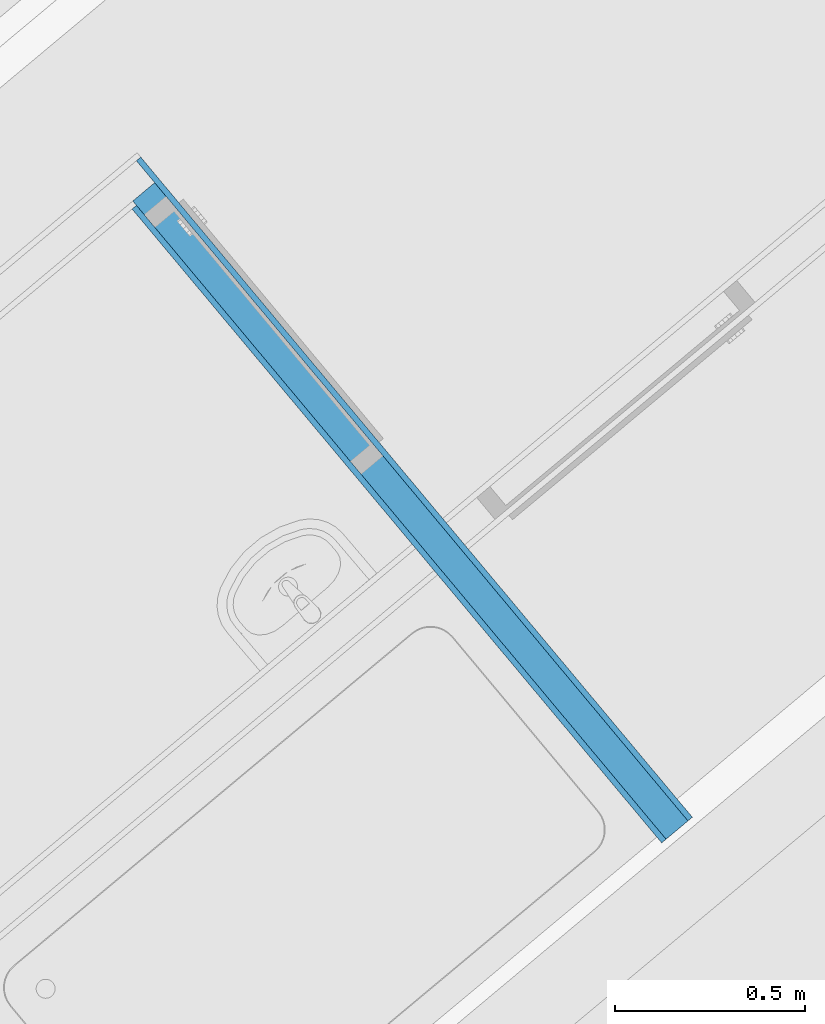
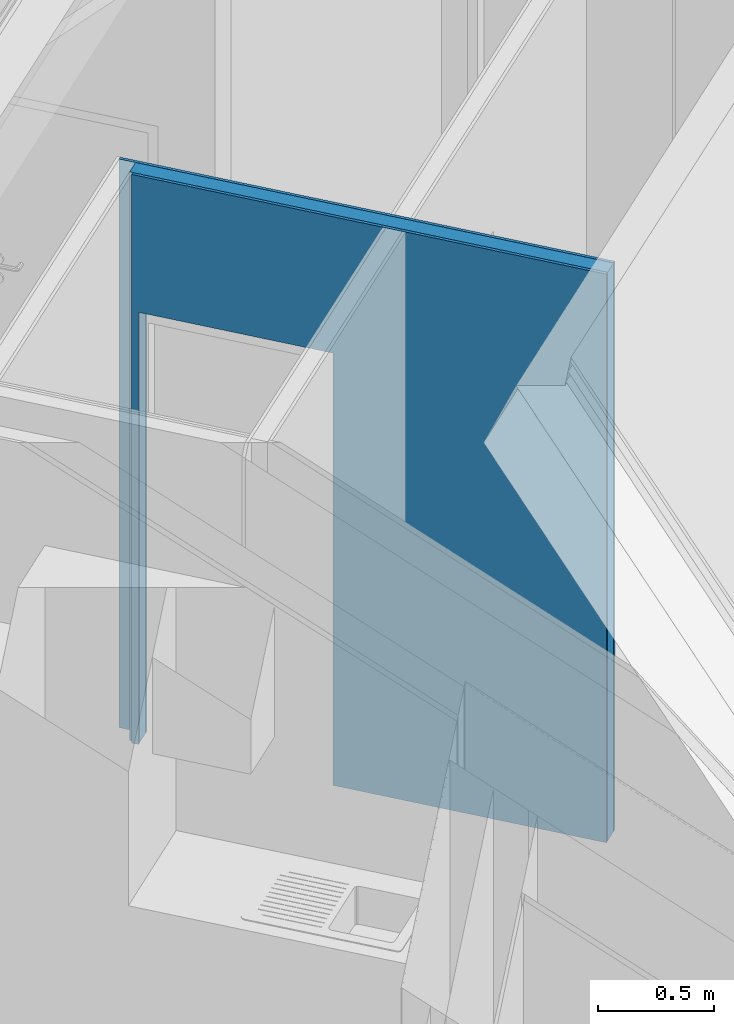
# One storey, part 1 of 47: 3 building element parts, 1 opening, 1 element without a shape of its own.
"""IFC4 building model written with IfcOpenShell, lengths in metres."""

from ifc_helpers import new_model, entity, si_unit, converted_unit, derived_unit, direction, frame, origin_with_axes, place, context, subcontext, project, spatial, polygons, material, type_object, element, aggregate, save


model = new_model("IFC4")

# Units and contexts
model_context = context("Model", 3, precision=1e-05, world=origin_with_axes(), true_north=direction((0.0, 1.0)))
body_context = subcontext(model_context, "Body", "Model", "MODEL_VIEW")
ifc_project = project(units=[si_unit("LENGTHUNIT", "METRE"), si_unit("AREAUNIT", "SQUARE_METRE"), si_unit("VOLUMEUNIT", "CUBIC_METRE"), converted_unit("PLANEANGLEUNIT", "DEGREE", entity("IfcPlaneAngleMeasure", 0.0174532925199), si_unit("PLANEANGLEUNIT", "RADIAN"), dimensions=[0, 0, 0, 0, 0, 0, 0]), converted_unit("TIMEUNIT", "Year", entity("IfcTimeMeasure", 31556926.0), si_unit("TIMEUNIT", "SECOND"), dimensions=[0, 0, 1, 0, 0, 0, 0]), si_unit("MASSUNIT", "GRAM", prefix="KILO"), si_unit("THERMODYNAMICTEMPERATUREUNIT", "DEGREE_CELSIUS"), si_unit("LUMINOUSINTENSITYUNIT", "LUMEN"), si_unit("ENERGYUNIT", "JOULE", prefix="MEGA"), derived_unit("THERMALCONDUCTANCEUNIT", [(si_unit("POWERUNIT", "WATT"), 1), (si_unit("LENGTHUNIT", "METRE"), -1), (si_unit("THERMODYNAMICTEMPERATUREUNIT", "KELVIN"), -1)]), derived_unit("SPECIFICHEATCAPACITYUNIT", [(si_unit("ENERGYUNIT", "JOULE"), 1), (si_unit("MASSUNIT", "GRAM", prefix="KILO"), -1), (si_unit("THERMODYNAMICTEMPERATUREUNIT", "KELVIN"), -1)]), derived_unit("MASSDENSITYUNIT", [(si_unit("MASSUNIT", "GRAM", prefix="KILO"), 1), (si_unit("VOLUMEUNIT", "CUBIC_METRE"), -1)])], contexts=[model_context])

# Site, building, storey
site_placement = place(None, frame((-0.00153261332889, -0.00661245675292, 0.0), z_axis=(0.0, 0.0, 1.0), x_axis=(1.0, 0.0, 0.0)))
site = spatial("IfcSite", under=ifc_project, at=site_placement, Name="Site", CompositionType="ELEMENT")
building_placement = place(site_placement, origin_with_axes())
building = spatial("IfcBuilding", under=site, at=building_placement, Name="Building", CompositionType="ELEMENT")
storey_placement = place(building_placement, frame((0.0, 0.0, 8.66), z_axis=(0.0, 0.0, 1.0), x_axis=(1.0, 0.0, 0.0)))
storey = spatial("IfcBuildingStorey", under=building, at=storey_placement, Name="DG2", CompositionType="ELEMENT", Elevation=8.66)

# Wall, opening, building element parts
wall_type = type_object("IfcWallType", Name="IW LB 01 Leichtbautrennwand einfach 10,5 cm 105", PredefinedType="NOTDEFINED")
wall_placement = place(storey_placement, frame((2.56825967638, 20.9467525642, 0.0), z_axis=(0.0, 0.0, 1.0), x_axis=(0.641218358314, -0.767358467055, 0.0)))
wall = element("IfcWall", 1, at=wall_placement, inside=storey, type_object=wall_type, Name="Wand-014", PredefinedType="NOTDEFINED")
opening_placement = place(wall_placement, frame((0.476292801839, 0.0, 0.22), z_axis=(0.0, 0.0, 1.0), x_axis=(1.0, 0.0, 0.0)))
element("IfcOpeningElement", 2, at=opening_placement, cuts=wall, Name="Tür-019", context=body_context, identifier="Reference", shape_type="Tessellation", body=[
    polygons([(-0.445, -1.0690795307, 2.045), (-0.445, -1.0690795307, -0.22), (0.445, -1.0690795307, -0.22), (0.445, -1.0690795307, 2.045), (-0.445, 1.1740795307, 2.045), (-0.445, 1.1740795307, -0.22), (0.445, 1.1740795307, -0.22), (0.445, 1.1740795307, 2.045)], [[[1, 2, 3, 4]], [[5, 6, 2, 1]], [[6, 7, 3, 2]], [[7, 8, 4, 3]], [[8, 5, 1, 4]], [[7, 6, 5, 8]]], closed=True),
])
ifc_material_1 = material(Name="Gipskarton")
building_element_part_1_placement = place(wall_placement, origin_with_axes())
building_element_part_1 = element("IfcBuildingElementPart", 3, at=building_element_part_1_placement, material=ifc_material_1, Name="Gipskarton", PredefinedType="NOTDEFINED", context=body_context, shape_type="Tessellation", body=[
    polygons([(0.0312928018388, 0.105, 2.265), (0.0312928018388, 0.105, 0.22), (0.0312928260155, 0.105, 0.0), (-0.0899987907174, 0.105, 0.0), (-0.0899987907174, 0.105, 2.98), (2.17069774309, 0.105, 2.98), (2.17069774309, 0.105, 0.0), (0.921292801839, 0.105, 0.0), (0.921292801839, 0.105, 0.22), (0.921292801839, 0.105, 2.265), (0.0312928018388, 0.09, 2.265), (0.0312928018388, 0.09, 0.22), (0.0312928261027, 0.09, 0.0), (-0.0899989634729, 0.09, 0.0), (-0.0899989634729, 0.09, 2.98), (2.17069774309, 0.09, 2.98), (2.17069774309, 0.09, 0.0), (0.921292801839, 0.09, 0.0), (0.921292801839, 0.09, 0.22), (0.921292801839, 0.09, 2.265)], [[[1, 2, 3, 4, 5, 6, 7, 8, 9, 10]], [[2, 1, 11, 12]], [[2, 12, 13, 3]], [[13, 14, 4, 3]], [[4, 14, 15, 5]], [[16, 6, 5, 15]], [[7, 6, 16, 17]], [[8, 7, 17, 18]], [[19, 9, 8, 18]], [[10, 9, 19, 20]], [[1, 10, 20, 11]], [[20, 19, 18, 17, 16, 15, 14, 13, 12, 11]]], closed=True),
])
ifc_material_2 = material(Name="Mineralwolle weich")
building_element_part_2_placement = place(wall_placement, origin_with_axes())
building_element_part_2 = element("IfcBuildingElementPart", 4, at=building_element_part_2_placement, material=ifc_material_2, Name="Mineralwolle weich", PredefinedType="NOTDEFINED", context=body_context, shape_type="Tessellation", body=[
    polygons([(0.0312928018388, 0.09, 2.265), (0.0312928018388, 0.09, 0.22), (0.0312928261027, 0.09, 0.0), (-0.0149989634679, 0.09, 0.0), (-0.0149989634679, 0.09, 2.98), (2.17069774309, 0.09, 2.98), (2.17069774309, 0.09, 0.0), (0.921292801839, 0.09, 0.0), (0.921292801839, 0.09, 0.22), (0.921292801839, 0.09, 2.265), (0.0312928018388, 0.015, 2.265), (0.0312928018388, 0.015, 0.22), (0.0312928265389, 0.015, 0.0), (-0.0149998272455, 0.015, 0.0), (-0.0149998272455, 0.015, 2.98), (2.17069774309, 0.015, 2.98), (2.17069774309, 0.015, 0.0), (0.921292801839, 0.015, 0.0), (0.921292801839, 0.015, 0.22), (0.921292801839, 0.015, 2.265)], [[[1, 2, 3, 4, 5, 6, 7, 8, 9, 10]], [[2, 1, 11, 12]], [[2, 12, 13, 3]], [[13, 14, 4, 3]], [[4, 14, 15, 5]], [[16, 6, 5, 15]], [[7, 6, 16, 17]], [[8, 7, 17, 18]], [[19, 9, 8, 18]], [[10, 9, 19, 20]], [[1, 10, 20, 11]], [[20, 19, 18, 17, 16, 15, 14, 13, 12, 11]]], closed=True),
])
building_element_part_3_placement = place(wall_placement, origin_with_axes())
building_element_part_3 = element("IfcBuildingElementPart", 5, at=building_element_part_3_placement, material=ifc_material_1, Name="Gipskarton", PredefinedType="NOTDEFINED", context=body_context, shape_type="Tessellation", body=[
    polygons([(0.0312928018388, 0.015, 2.265), (0.0312928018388, 0.015, 0.22), (0.0312928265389, 0.015, 0.0), (1.7275551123e-07, 0.015, 0.0), (1.7275551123e-07, 0.015, 2.98), (2.17069774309, 0.015, 2.98), (2.17069774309, 0.015, 0.0), (0.921292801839, 0.015, 0.0), (0.921292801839, 0.015, 0.22), (0.921292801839, 0.015, 2.265), (0.0312928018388, -3.62216034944e-08, 2.265), (0.0312928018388, 3.35931389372e-08, 0.22), (0.0312928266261, 3.35931389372e-08, 0.0), (0.0, 0.0, 0.0), (0.0, 0.0, 2.98), (2.17069774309, 0.0, 2.98), (2.17069774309, 0.0, 0.0), (0.921292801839, -3.62216052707e-08, 0.0), (0.921292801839, -3.62216034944e-08, 0.22), (0.921292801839, -3.62216034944e-08, 2.265)], [[[1, 2, 3, 4, 5, 6, 7, 8, 9, 10]], [[2, 1, 11, 12]], [[2, 12, 13, 3]], [[13, 14, 4, 3]], [[4, 14, 15, 5]], [[16, 6, 5, 15]], [[7, 6, 16, 17]], [[8, 7, 17, 18]], [[19, 9, 8, 18]], [[10, 9, 19, 20]], [[1, 10, 20, 11]], [[20, 19, 18, 17, 16, 15, 14, 13, 12, 11]]], closed=True),
])
aggregate(wall, [building_element_part_1, building_element_part_2, building_element_part_3])

save(model, "model.ifc")
